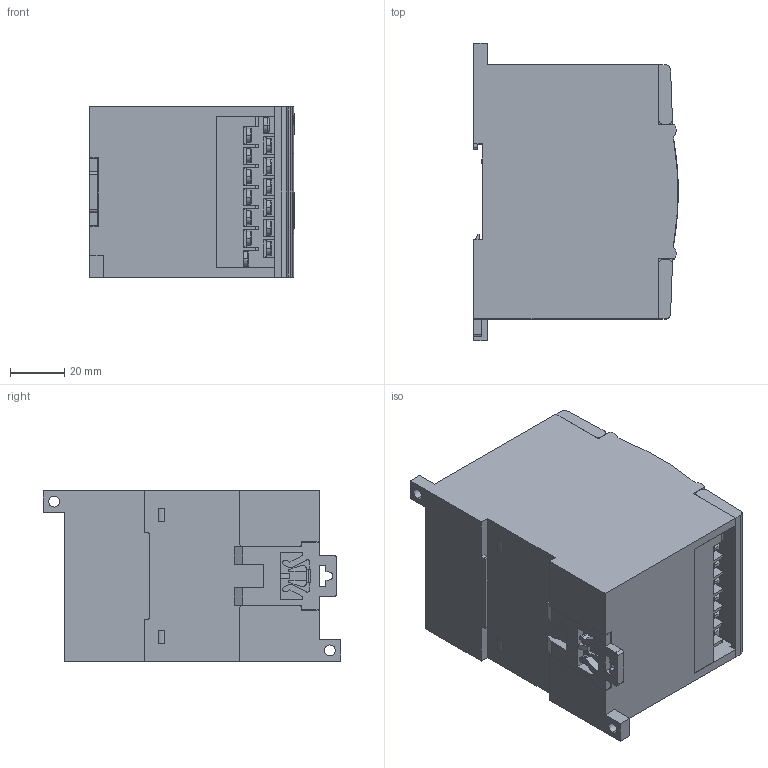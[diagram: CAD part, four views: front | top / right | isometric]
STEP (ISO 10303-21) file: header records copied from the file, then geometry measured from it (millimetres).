
FILE_DESCRIPTION (( 'STEP AP214' ), '1' );
FILE_NAME ('3D Ìîäåëü ÌÓ110-224.16Ð.STEP', '2015-12-01T12:52:56', ( '' ), ( '' ), 'SwSTEP 2.0', 'SolidWorks 2013', '' );
FILE_SCHEMA (( 'AUTOMOTIVE_DESIGN' ));
Length unit declared in the file: millimetre
Products named in the file (6): 婰膲僗闉; Êðûøêà ïðîçðà÷íàÿ ÌÂ110; Ðîçåòêà ÌÕ-12; MX110_007FA01M; Êîðïóñ ÌÓ110-224.16Ð; 3D Ìîäåëü ÌÓ110-224.16Ð
Assembly tree (7 placements, depth 2):
  3D Ìîäåëü ÌÓ110-224.16Ð
    Êîðïóñ ÌÓ110-224.16Ð
    MX110_007FA01M
    Ðîçåòêà ÌÕ-12  x2
    Êðûøêà ïðîçðà÷íàÿ ÌÂ110  x2
    婰膲僗闉
Bounding box: 75.62 x 110 x 63 mm (x, y, z)
Volume: 413447.7 mm3; surface area: 63192.1 mm2
Topology: 36 solids, 36 shells, 1967 faces, 5099 edges, 3375 vertices
Faces by surface type: plane 1177, bspline 417, cylinder 265, cone 104, torus 4
Entity records: 81131 total; most frequent: CARTESIAN_POINT 32007, ORIENTED_EDGE 8134, DIRECTION 5776, EDGE_CURVE 4067, VERTEX_POINT 2699, VECTOR 1976, LINE 1976, AXIS2_PLACEMENT_3D 1900
